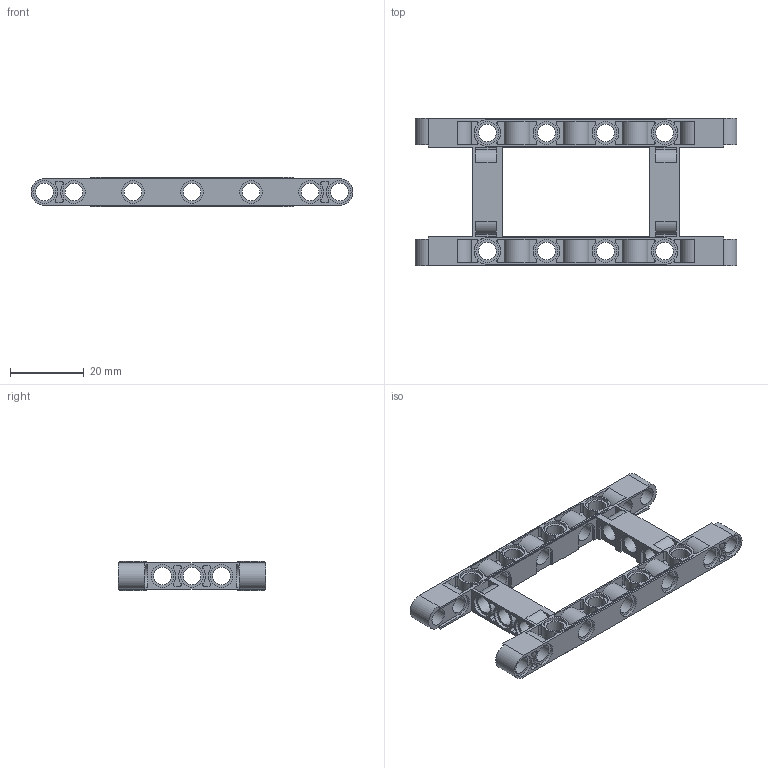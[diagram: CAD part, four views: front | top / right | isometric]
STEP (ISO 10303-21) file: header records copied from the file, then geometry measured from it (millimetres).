
FILE_DESCRIPTION(/* description */ ('Unknown'),/* implementation_level */ '2;1');
FILE_NAME(/* name */ 'ClGray_4540797_AVV',/* time_stamp */ '2025-07-21T23:56:36+02:00',/* author */ ('Unknown'),/* organization */ ('Unknown'),/* preprocessor_version */ 'ST-DEVELOPER v19.4',/* originating_system */ 'Solid Edge',/* authorisation */ 'Unknown');
FILE_SCHEMA (('AUTOMOTIVE_DESIGN {1 0 10303 214 3 1 1}'));
Length unit declared in the file: millimetre
Products named in the file (1): ClGray_4540797_AVV
Bounding box: 87.2 x 40 x 8 mm (x, y, z)
Volume: 6649.8 mm3; surface area: 11283.4 mm2
Topology: 1 solids, 1 shells, 512 faces, 1324 edges, 880 vertices
Faces by surface type: plane 256, cylinder 256
Full cylindrical faces by diameter (mm): 4.8 x28, 6.2 x36
Entity records: 15618 total; most frequent: DIRECTION 2814, CARTESIAN_POINT 2653, ORIENTED_EDGE 2520, EDGE_CURVE 1260, AXIS2_PLACEMENT_3D 1041, VERTEX_POINT 880, LINE 732, VECTOR 732
